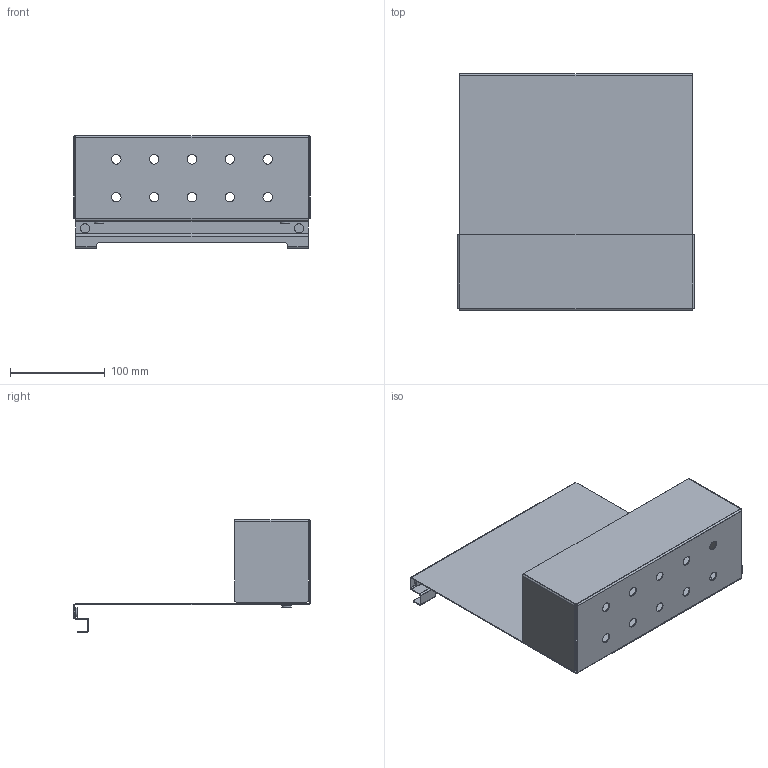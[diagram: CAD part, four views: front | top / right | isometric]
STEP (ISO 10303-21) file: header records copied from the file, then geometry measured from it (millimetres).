
FILE_DESCRIPTION (( 'STEP AP214' ), '1' );
FILE_NAME ('Pólka lazienkowa 25cm.STEP', '2023-03-16T10:43:43', ( '' ), ( '' ), 'SwSTEP 2.0', 'SolidWorks 2021', '' );
FILE_SCHEMA (( 'AUTOMOTIVE_DESIGN' ));
Length unit declared in the file: millimetre
Products named in the file (3): 01-010-0250-W-00-00; stopka gumowa 10mm_7mm; Pólka lazienkowa 25cm
Assembly tree (5 placements, depth 2):
  Pólka lazienkowa 25cm
    01-010-0250-W-00-00
    stopka gumowa 10mm_7mm  x4
Bounding box: 250 x 250 x 119 mm (x, y, z)
Volume: 125732.8 mm3; surface area: 252842.7 mm2
Topology: 5 solids, 5 shells, 156 faces, 346 edges, 204 vertices
Faces by surface type: plane 76, cylinder 72, torus 8
Entity records: 3794 total; most frequent: DIRECTION 696, CARTESIAN_POINT 609, ORIENTED_EDGE 596, EDGE_CURVE 298, AXIS2_PLACEMENT_3D 261, LINE 174, VECTOR 174, VERTEX_POINT 174
